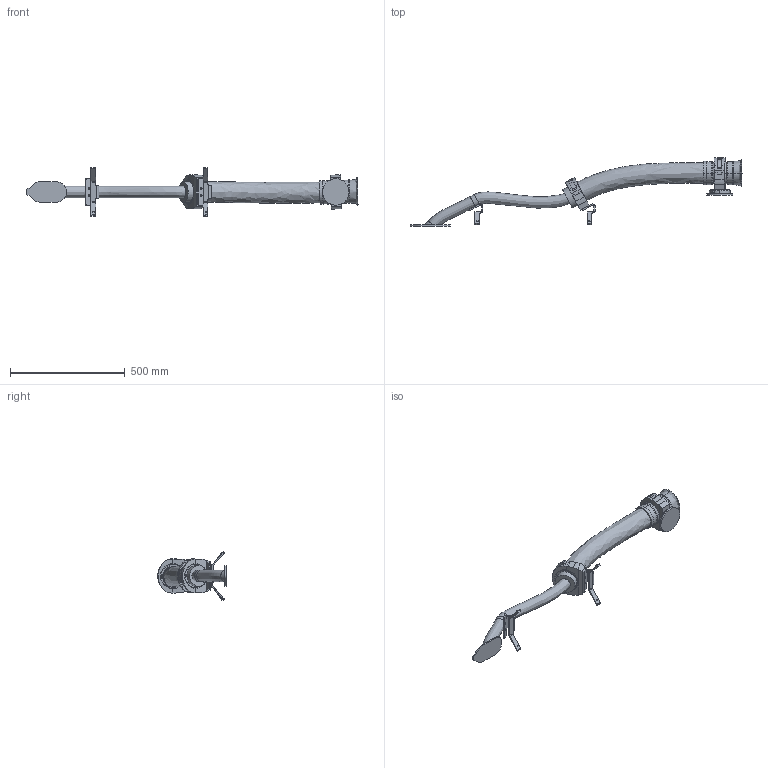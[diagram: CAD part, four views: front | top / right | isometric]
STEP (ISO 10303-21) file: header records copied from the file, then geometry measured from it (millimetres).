
FILE_DESCRIPTION (( 'STEP AP214' ), '1' );
FILE_NAME ('IRB77X0-LID_All-330_OC_01_LINK04_CABLE.step', '2026-01-27T14:53:30', ( '' ), ( '' ), 'SwSTEP 2.0', 'SolidWorks 2024', '' );
FILE_SCHEMA (( 'AUTOMOTIVE_DESIGN' ));
Length unit declared in the file: millimetre
Products named in the file (1): IRB77X0-LID_All-330_OC_01_LINK04_CABLE
Bounding box: 1446.8 x 298.27 x 213.34 mm (x, y, z)
Volume: 7714485.1 mm3; surface area: 529493.5 mm2
Topology: 1 solids, 2 shells, 456 faces, 1142 edges, 722 vertices
Faces by surface type: plane 242, cylinder 157, sphere 22, cone 20, bspline 13, torus 2
Full cylindrical faces by diameter (mm): 10 x2, 15 x2, 90 x2
Entity records: 22368 total; most frequent: CARTESIAN_POINT 6467, DIRECTION 2293, ORIENTED_EDGE 2254, EDGE_CURVE 1127, AXIS2_PLACEMENT_3D 853, VERTEX_POINT 716, VECTOR 587, LINE 587
